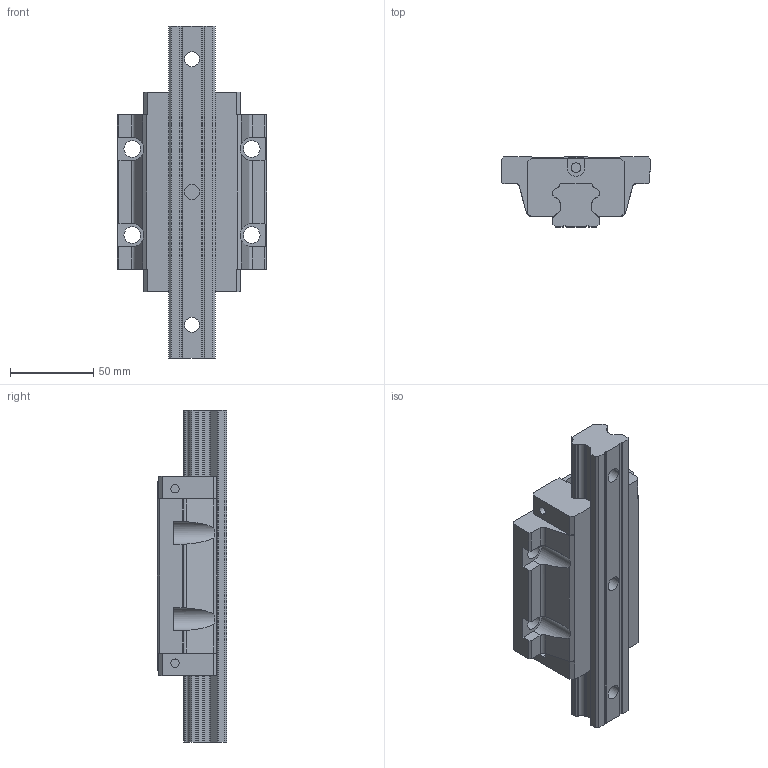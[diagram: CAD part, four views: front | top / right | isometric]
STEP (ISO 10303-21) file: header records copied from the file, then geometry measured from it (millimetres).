
FILE_DESCRIPTION((''),'2;1');
FILE_NAME('HGW30HC_ASM','2008-07-11T',('immo'),(''),'PRO/ENGINEER BY PARAMETRIC TECHNOLOGY CORPORATION, 2004360','PRO/ENGINEER BY PARAMETRIC TECHNOLOGY CORPORATION, 2004360','');
FILE_SCHEMA(('CONFIG_CONTROL_DESIGN'));
Length unit declared in the file: millimetre
Products named in the file (4): HGW30_1; HGR30_1; HGW30_ASM_1_ASM; HGW30HC_ASM
Assembly tree (3 placements, depth 3):
  HGW30HC_ASM
    HGW30_ASM_1_ASM
      HGW30_1
      HGR30_1
Bounding box: 90 x 42 x 200 mm (x, y, z)
Volume: 354349.4 mm3; surface area: 65108.2 mm2
Topology: 2 solids, 2 shells, 241 faces, 744 edges, 520 vertices
Faces by surface type: plane 145, cylinder 96
Entity records: 8630 total; most frequent: CARTESIAN_POINT 1616, ORIENTED_EDGE 1488, DIRECTION 1424, EDGE_CURVE 744, VECTOR 524, LINE 524, VERTEX_POINT 520, AXIS2_PLACEMENT_3D 450
